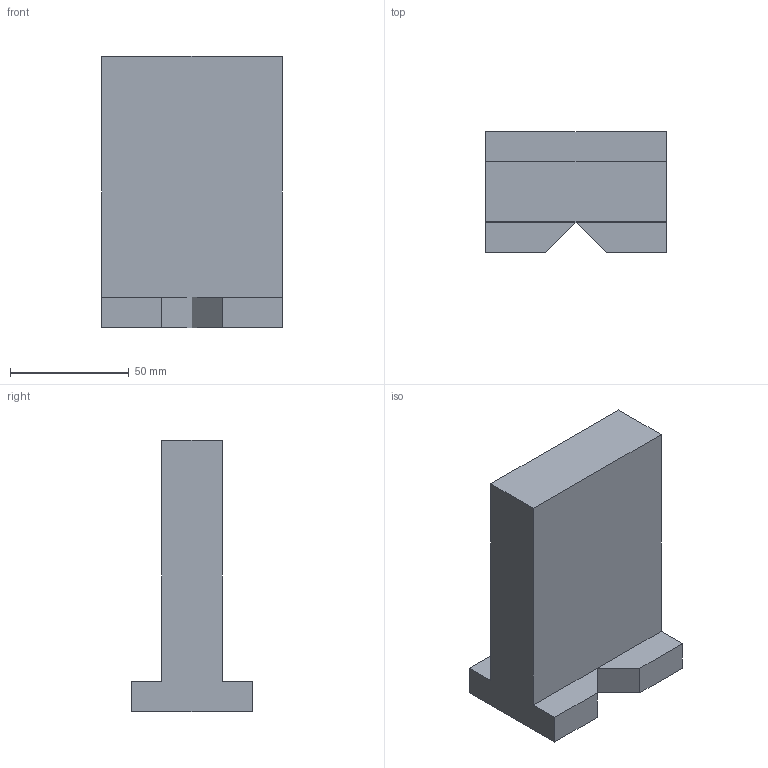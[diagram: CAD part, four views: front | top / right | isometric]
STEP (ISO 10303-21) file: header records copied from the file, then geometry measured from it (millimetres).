
FILE_DESCRIPTION(/* description */ ('STEP AP242 Edition 2','CAx-IF Rec.Pracs.---Representation and Presentation of Product Manufacturing Information (PMI)---4.0---2014-10-13','CAx-IF Rec.Pracs.---3D Tessellated Geometry---0.4---2014-09-14','2;1','CAx-IF Rec.Pracs.---User Defined Attributes---1.5---2016-08-15'),/* implementation_level */ '2;1');
FILE_NAME(/* name */ 'Part Studio 2 - Part 1',/* time_stamp */ '2026-11-05T14:49:20Z',/* author */ (''),/* organization */ (''),/* preprocessor_version */ 'ST-DEVELOPER v20',/* originating_system */ 'ONSHAPE BY PTC INC, 1.223',/* authorisation */ ' ');
FILE_SCHEMA (('AP242_MANAGED_MODEL_BASED_3D_ENGINEERING_MIM_LF { 1 0 10303 442 3 1 4 }'));
Length unit declared in the file: metre
Products named in the file (1): Part 1
Bounding box: 76.2 x 50.8 x 114.3 mm (x, y, z)
Volume: 243757.6 mm3; surface area: 31423.9 mm2
Topology: 1 solids, 1 shells, 14 faces, 34 edges, 22 vertices
Faces by surface type: plane 14
Entity records: 424 total; most frequent: CARTESIAN_POINT 71, ORIENTED_EDGE 68, DIRECTION 64, EDGE_CURVE 34, LINE 34, VECTOR 34, VERTEX_POINT 22, AXIS2_PLACEMENT_3D 15
